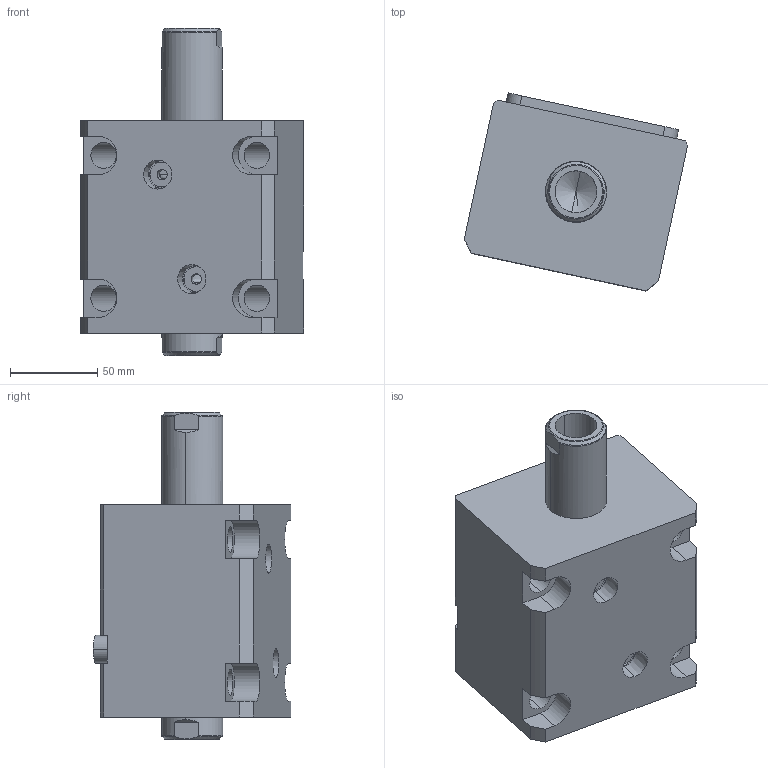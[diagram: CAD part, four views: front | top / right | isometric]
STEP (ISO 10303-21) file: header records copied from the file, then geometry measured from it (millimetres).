
FILE_DESCRIPTION (( 'STEP AP214' ), '1' );
FILE_NAME ('chtb-lw63x40n_asm.STEP', '2018-05-03T07:24:09', ( 'Windows' ), ( 'Microsoft' ), 'SwSTEP 2.0', 'SolidWorks 2015', '' );
FILE_SCHEMA (( 'AUTOMOTIVE_DESIGN' ));
Length unit declared in the file: millimetre
Products named in the file (5): CHTB-LA63PJ; CHTB-63QG; chtb-lw63x40n_asm; CHTB-SW63X40NHSG; CHTB-LW63X40NBT
Assembly tree (4 placements, depth 2):
  chtb-lw63x40n_asm
    CHTB-63QG
    CHTB-LA63PJ
    CHTB-LW63X40NBT
    CHTB-SW63X40NHSG
Bounding box: 128.18 x 113.67 x 188 mm (x, y, z)
Volume: 1114253.3 mm3; surface area: 163240.6 mm2
Topology: 4 solids, 4 shells, 194 faces, 563 edges, 381 vertices
Faces by surface type: cylinder 104, plane 50, cone 16, bspline 12, torus 12
Entity records: 18887 total; most frequent: CARTESIAN_POINT 13868, ORIENTED_EDGE 1110, DIRECTION 876, EDGE_CURVE 555, VERTEX_POINT 381, AXIS2_PLACEMENT_3D 336, EDGE_LOOP 222, VECTOR 204
